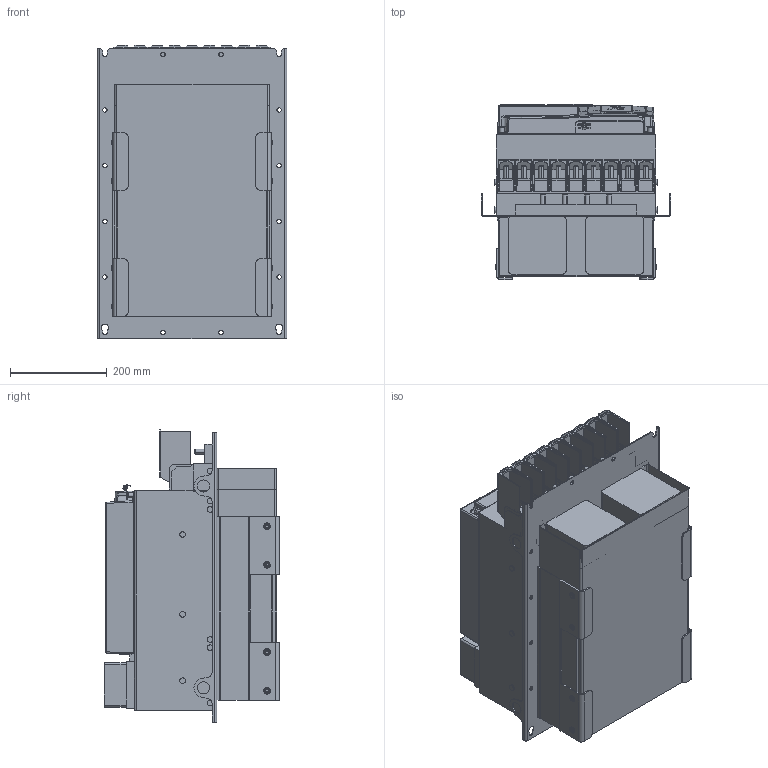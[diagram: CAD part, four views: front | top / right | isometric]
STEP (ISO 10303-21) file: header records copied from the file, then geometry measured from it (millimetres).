
FILE_DESCRIPTION (( 'STEP AP214' ), '1' );
FILE_NAME ('10061524_000.STEP', '2022-11-16T14:08:27', ( '' ), ( '' ), 'SwSTEP 2.0', 'SolidWorks 2022', '' );
FILE_SCHEMA (( 'AUTOMOTIVE_DESIGN' ));
Length unit declared in the file: millimetre
Products named in the file (15): Kundenmodell^10045475_000_Gehäusebaugruppe mit Lüfterkarte; 10061502_000_Deckel (Kundenmodell); Kundenmodell^10061502_000; 10051076_000_Kundenmodell; Kundenmodell^10043622_000; 10061514_000_F6-7 Leistungsteil TR5 (Kundenmodell); Kundenmodell^10051076_000_Kundenmodell mit Geberbuchsen; Kundenmodell^10059764_000; Kundenmodell Leistungsteil F6-7 TR5^10061514_000; 10061524_000; 10059764_000_Blindabdeckung (Kundenmodell); 10045475_000_Gehäusebaugruppe F6-7 +Lüfterkarte (Kundenmodell); 10044088_000_Kundenmodell; 10043622_000_70F6 Klemme (Kundenmodell); Kundenmodell^10044088_000
Assembly tree (14 placements, depth 4):
  10061524_000
    10061514_000_F6-7 Leistungsteil TR5 (Kundenmodell)
      10043622_000_70F6 Klemme (Kundenmodell)
        Kundenmodell^10043622_000
      Kundenmodell Leistungsteil F6-7 TR5^10061514_000
    10045475_000_Gehäusebaugruppe F6-7 +Lüfterkarte (Kundenmodell)
      10061502_000_Deckel (Kundenmodell)
        Kundenmodell^10061502_000
      10044088_000_Kundenmodell
        Kundenmodell^10044088_000
      Kundenmodell^10045475_000_Gehäusebaugruppe mit Lüfterkarte
    10051076_000_Kundenmodell
      10059764_000_Blindabdeckung (Kundenmodell)
        Kundenmodell^10059764_000
      Kundenmodell^10051076_000_Kundenmodell mit Geberbuchsen
Bounding box: 392 x 361.9 x 606.26 mm (x, y, z)
Volume: 55724877.1 mm3; surface area: 2320788.3 mm2
Topology: 13 solids, 13 shells, 3285 faces, 8479 edges, 5240 vertices
Faces by surface type: plane 1684, cylinder 990, bspline 296, sphere 172, torus 81, cone 62
Entity records: 106752 total; most frequent: CARTESIAN_POINT 28684, ORIENTED_EDGE 16738, DIRECTION 15350, EDGE_CURVE 8369, VECTOR 5370, LINE 5370, VERTEX_POINT 5237, AXIS2_PLACEMENT_3D 4990
